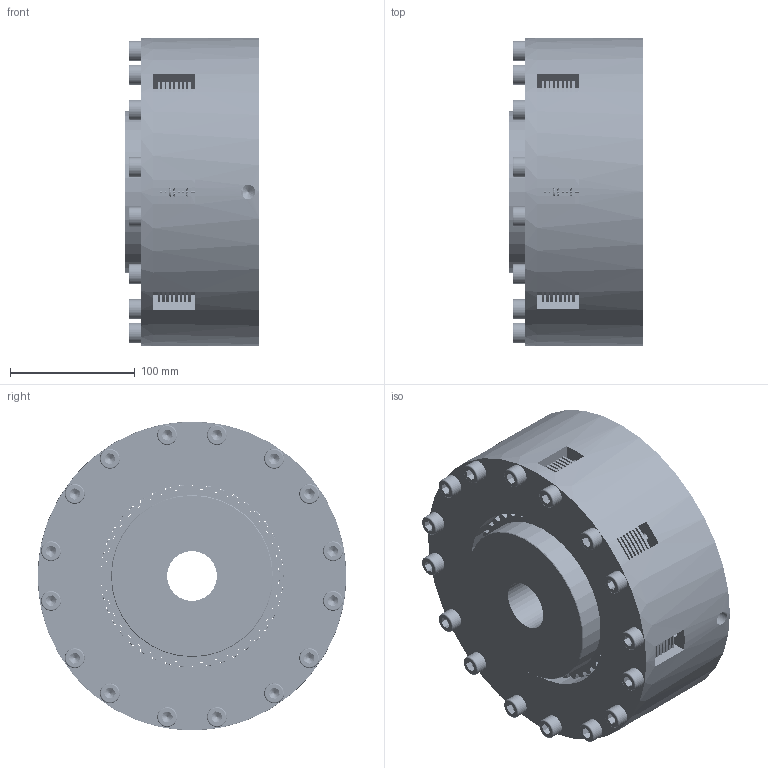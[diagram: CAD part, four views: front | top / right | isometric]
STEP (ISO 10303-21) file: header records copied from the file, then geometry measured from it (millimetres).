
FILE_DESCRIPTION((''),'2;1');
FILE_NAME('\\Srv-tecnico\dati\UFFICIO TECNICO\ARCHIVIO INVENTOR\DISEGNI\UFFICIO TECNICO\03_Friz_Oleodinamiche e Pneumatiche_Cilindro_Statico\03_05 FPL-BF\03_05_010_01 FPL10-BF\03_05_010_01 FPL10 @STEP.stp','2014-02-05T10:50:22',('stefano'),(''),'Autodesk Inventor 2010','Autodesk Inventor 2010','');
FILE_SCHEMA(('CONFIG_CONTROL_DESIGN'));
Length unit declared in the file: millimetre
Products named in the file (1): 03_05_010_01 FPL10 - 2013_Sostituto_1
Bounding box: 108 x 248 x 248 mm (x, y, z)
Volume: 3520689.8 mm3; surface area: 457046.3 mm2
Topology: 5 solids, 199 shells, 7526 faces, 23066 edges, 14808 vertices
Faces by surface type: plane 4634, cylinder 1524, bspline 1216, torus 106, cone 46
Full cylindrical faces by diameter (mm): 2 x4, 10 x16, 11.445 x1, 16 x16, 40 x1, 130 x1, 148.5 x8, 150 x2, 160 x3, 165 x1, 172 x1, 203 x1, 214 x7, 215 x3, 216 x1, 248 x2
Entity records: 276621 total; most frequent: CARTESIAN_POINT 70183, ORIENTED_EDGE 45184, DIRECTION 38172, EDGE_CURVE 22592, VECTOR 15186, LINE 15186, VERTEX_POINT 14644, AXIS2_PLACEMENT_3D 11493
